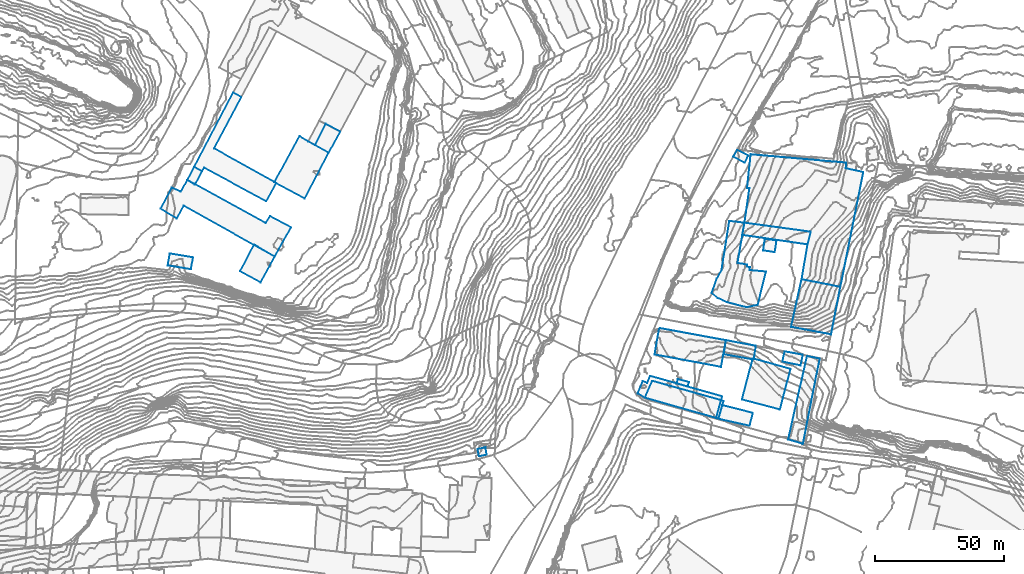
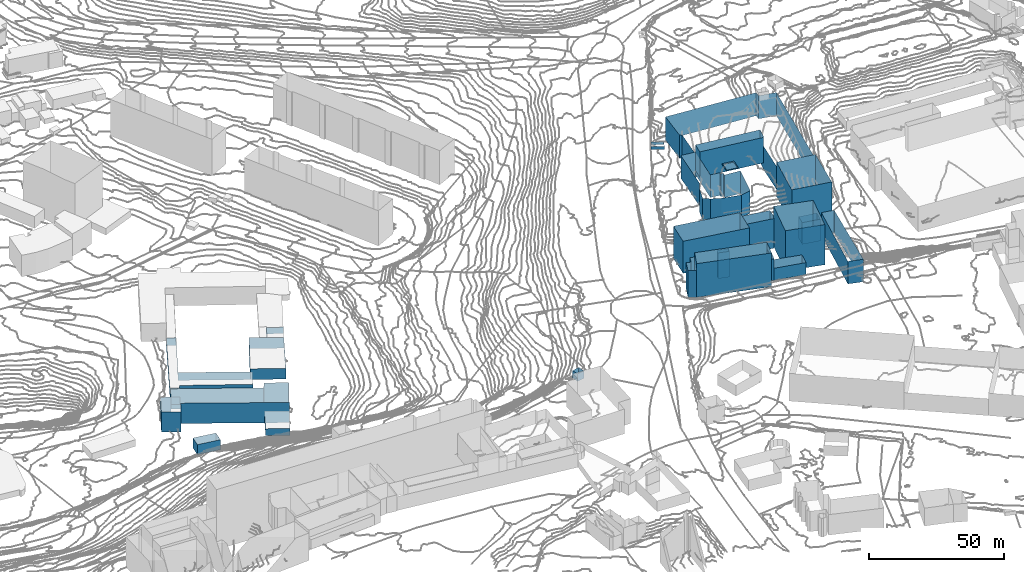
# Not in any storey, part 45 of 419: 24 walls.
"""IFC2X3 model written with IfcOpenShell, lengths in metres."""

from ifc_helpers import new_model, si_unit, frame, origin_with_axes, place, context, subcontext, project, faceted_brep, element, save


model = new_model("IFC2X3")

# Units and contexts
model_context = context("Model", 3, precision=1e-05, world=origin_with_axes())
body_context = subcontext(model_context, "Body", "Model", "MODEL_VIEW")
ifc_project = project(units=[si_unit("AREAUNIT", "SQUARE_METRE"), si_unit("LENGTHUNIT", "METRE")], contexts=[model_context])

# Walls
wall_1_placement = place(None, frame((808.3920204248, 392.4976909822, 74.1273982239), z_axis=(0.0, 0.0, 1.0), x_axis=(1.0, 0.0, 0.0)))
element("IfcWall", 1, at=wall_1_placement, Name="Mur 0", context=body_context, shape_type="Brep", body=[
    faceted_brep([(7.0, -1.3999999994, 9.8726017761), (0.0, 0.0, 9.8726017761), (7.0, -1.3999999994, 0.0), (0.0, 0.0, 0.0), (7.8999999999, 2.7000000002, 9.8726017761), (7.8999999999, 2.7000000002, 0.0), (0.7999999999, 4.0, 9.8726017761), (0.7999999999, 4.0, 0.0)], [[[0, 1, 2]], [[2, 1, 3]], [[4, 0, 5]], [[5, 0, 2]], [[1, 6, 3]], [[3, 6, 7]], [[6, 4, 7]], [[7, 4, 5]]]),
])
wall_2_placement = place(None, frame((782.6920204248, 370.6976909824, 79.8897016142), z_axis=(0.0, 0.0, 1.0), x_axis=(1.0, 0.0, 0.0)))
element("IfcWall", 2, at=wall_2_placement, Name="Mur 0", context=body_context, shape_type="Brep", body=[
    faceted_brep([(0.0, 0.0, 9.8102983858), (1.9, 6.9000000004, 9.8102983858), (0.0, 0.0, 0.0), (1.9, 6.9000000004, 0.0), (0.9, -0.2999999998, 9.8102983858), (0.9, -0.2999999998, 0.0), (2.9, 6.6000000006, 9.8102983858), (2.9, 6.6000000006, 0.0)], [[[0, 1, 2]], [[2, 1, 3]], [[4, 0, 5]], [[5, 0, 2]], [[1, 6, 3]], [[3, 6, 7]], [[6, 4, 7]], [[7, 4, 5]]]),
])
wall_3_placement = place(None, frame((792.7920204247, 441.5976909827, 80.2005007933), z_axis=(0.0, 0.0, 1.0), x_axis=(1.0, 0.0, 0.0)))
element("IfcWall", 3, at=wall_3_placement, Name="Mur 0", context=body_context, shape_type="Brep", body=[
    faceted_brep([(26.6000000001, 1.2000000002, 11.5994992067), (25.3, -3.7000000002, 11.5994992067), (26.6000000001, 1.2000000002, 0.0), (25.3, -3.7000000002, 0.0), (0.9, 4.7000000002, 11.5994992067), (0.9, 4.7000000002, 0.0), (0.0, 0.0, 11.5994992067), (0.0, 0.0, 0.0)], [[[0, 1, 2]], [[2, 1, 3]], [[4, 0, 5]], [[5, 0, 2]], [[1, 6, 3]], [[3, 6, 7]], [[6, 4, 7]], [[7, 4, 5]]]),
])
wall_4_placement = place(None, frame((570.3920204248, 429.7976909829, 39.4399986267), z_axis=(0.0, 0.0, 1.0), x_axis=(1.0, 0.0, 0.0)))
element("IfcWall", 4, at=wall_4_placement, Name="Mur 0", context=body_context, shape_type="Brep", body=[
    faceted_brep([(9.7999999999, 3.0999999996, 4.5600013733), (9.0, -1.5, 4.5600013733), (9.7999999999, 3.0999999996, 0.0), (9.0, -1.5, 0.0), (0.7999999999, 4.5999999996, 4.5600013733), (0.7999999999, 4.5999999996, 0.0), (0.0, 0.0, 4.5600013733), (0.0, 0.0, 0.0)], [[[0, 1, 2]], [[2, 1, 3]], [[4, 0, 5]], [[5, 0, 2]], [[1, 6, 3]], [[3, 6, 7]], [[6, 4, 7]], [[7, 4, 5]]]),
])
wall_5_placement = place(None, frame((758.8920204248, 395.2976909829, 76.6662023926), z_axis=(0.0, 0.0, 1.0), x_axis=(1.0, 0.0, 0.0)))
element("IfcWall", 5, at=wall_5_placement, Name="Mur 0", context=body_context, shape_type="Brep", body=[
    faceted_brep([(0.0, 0.0, 14.5337976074), (1.7, 9.8999999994, 14.5337976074), (0.0, 0.0, 0.0), (1.7, 9.8999999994, 0.0), (25.7, -4.8000000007, 14.5337976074), (25.7, -4.8000000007, 0.0), (27.6, 5.5, 14.5337976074), (27.6, 5.5, 0.0), (2.1, 10.1999999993, 14.5337976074), (2.1, 10.1999999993, 0.0)], [[[0, 1, 2]], [[2, 1, 3]], [[4, 0, 5]], [[5, 0, 2]], [[6, 4, 7]], [[7, 4, 5]], [[1, 8, 3]], [[3, 8, 9]], [[8, 6, 9]], [[9, 6, 7]]]),
])
wall_6_placement = place(None, frame((793.6920204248, 446.2976909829, 77.1019989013), z_axis=(0.0, 0.0, 1.0), x_axis=(1.0, 0.0, 0.0)))
element("IfcWall", 6, at=wall_6_placement, Name="Mur 0", context=body_context, shape_type="Brep", body=[
    faceted_brep([(2.4, 26.5, 10.4980010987), (34.3, 23.6999999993, 10.4980010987), (2.4, 26.5, 0.0), (34.3, 23.6999999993, 0.0), (1.0, 13.5, 10.4980010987), (1.0, 13.5, 0.0), (1.9, 13.3999999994, 10.4980010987), (1.9, 13.3999999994, 0.0), (0.0, 0.0, 10.4980010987), (0.0, 0.0, 0.0), (25.7000000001, -3.5, 10.4980010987), (25.7000000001, -3.5, 0.0), (24.4, -8.4000000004, 10.4980010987), (24.4, -8.4000000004, 0.0), (22.1, -21.9000000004, 10.4980010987), (22.1, -21.9000000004, 0.0), (37.1, -24.8000000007, 10.4980010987), (37.1, -24.8000000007, 0.0), (46.0, 19.5999999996, 10.4980010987), (46.0, 19.5999999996, 0.0), (39.2000000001, 21.0999999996, 10.4980010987), (39.2000000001, 21.0999999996, 0.0), (39.4, 23.2999999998, 10.4980010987), (39.4, 23.2999999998, 0.0)], [[[0, 1, 2]], [[2, 1, 3]], [[4, 0, 5]], [[5, 0, 2]], [[6, 4, 7]], [[7, 4, 5]], [[8, 6, 9]], [[9, 6, 7]], [[10, 8, 11]], [[11, 8, 9]], [[12, 10, 13]], [[13, 10, 11]], [[14, 12, 15]], [[15, 12, 13]], [[16, 14, 17]], [[17, 14, 15]], [[18, 16, 19]], [[19, 16, 17]], [[20, 18, 21]], [[21, 18, 19]], [[1, 22, 3]], [[3, 22, 23]], [[22, 20, 23]], [[23, 20, 21]]]),
])
wall_7_placement = place(None, frame((627.3920204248, 476.3976909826, 39.5999984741), z_axis=(0.0, 0.0, 1.0), x_axis=(1.0, 0.0, 0.0)))
element("IfcWall", 7, at=wall_7_placement, Name="Mur 0", context=body_context, shape_type="Brep", body=[
    faceted_brep([(4.2, 8.2000000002, 2.9000015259), (9.7999999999, 5.2000000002, 2.9000015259), (4.2, 8.2000000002, 0.0), (9.7999999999, 5.2000000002, 0.0), (0.0, 0.0, 2.9000015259), (0.0, 0.0, 0.0), (5.2999999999, -3.0, 2.9000015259), (5.2999999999, -3.0, 0.0)], [[[0, 1, 2]], [[2, 1, 3]], [[4, 0, 5]], [[5, 0, 2]], [[1, 6, 3]], [[3, 6, 7]], [[6, 4, 7]], [[7, 4, 5]]]),
])
wall_8_placement = place(None, frame((598.3920204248, 427.4976909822, 39.6550003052), z_axis=(0.0, 0.0, 1.0), x_axis=(1.0, 0.0, 0.0)))
element("IfcWall", 8, at=wall_8_placement, Name="Mur 0", context=body_context, shape_type="Brep", body=[
    faceted_brep([(5.3999999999, 10.4000000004, 3.1449996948), (13.3999999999, 5.7000000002, 3.1449996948), (5.3999999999, 10.4000000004, 0.0), (13.3999999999, 5.7000000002, 0.0), (0.0, 0.0, 3.1449996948), (0.0, 0.0, 0.0), (7.8999999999, -4.2999999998, 3.1449996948), (7.8999999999, -4.2999999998, 0.0)], [[[0, 1, 2]], [[2, 1, 3]], [[4, 0, 5]], [[5, 0, 2]], [[1, 6, 3]], [[3, 6, 7]], [[6, 4, 7]], [[7, 4, 5]]]),
])
wall_9_placement = place(None, frame((767.3920204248, 384.0976909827, 78.0046014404), z_axis=(0.0, 0.0, 1.0), x_axis=(1.0, 0.0, 0.0)))
element("IfcWall", 9, at=wall_9_placement, Name="Mur 0", context=body_context, shape_type="Brep", body=[
    faceted_brep([(4.2999999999, -1.2000000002, 11.6953985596), (0.0, 0.0, 11.6953985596), (4.2999999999, -1.2000000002, 0.0), (0.0, 0.0, 0.0), (4.7999999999, 0.5, 11.6953985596), (4.7999999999, 0.5, 0.0), (0.5, 1.7000000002, 11.6953985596), (0.5, 1.7000000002, 0.0)], [[[0, 1, 2]], [[2, 1, 3]], [[4, 0, 5]], [[5, 0, 2]], [[1, 6, 3]], [[3, 6, 7]], [[6, 4, 7]], [[7, 4, 5]]]),
])
wall_10_placement = place(None, frame((580.5920204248, 467.8976909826, 39.4398013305), z_axis=(0.0, 0.0, 1.0), x_axis=(1.0, 0.0, 0.0)))
element("IfcWall", 10, at=wall_10_placement, Name="Mur 0", context=body_context, shape_type="Brep", body=[
    faceted_brep([(15.1, 28.7999999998, 3.5601986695), (18.3, 27.0999999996, 3.5601986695), (15.1, 28.7999999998, 0.0), (18.3, 27.0999999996, 0.0), (0.0, 0.0, 3.5601986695), (0.0, 0.0, 0.0), (3.1, -1.5999999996, 3.5601986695), (3.1, -1.5999999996, 0.0), (3.9, -0.2999999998, 3.5601986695), (3.9, -0.2999999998, 0.0), (27.9, -13.2999999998, 3.5601986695), (27.9, -13.2999999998, 0.0), (31.8, -6.2000000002, 3.5601986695), (31.8, -6.2000000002, 0.0), (7.7, 7.2000000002, 3.5601986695), (7.7, 7.2000000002, 0.0)], [[[0, 1, 2]], [[2, 1, 3]], [[4, 0, 5]], [[5, 0, 2]], [[6, 4, 7]], [[7, 4, 5]], [[8, 6, 9]], [[9, 6, 7]], [[10, 8, 11]], [[11, 8, 9]], [[12, 10, 13]], [[13, 10, 11]], [[1, 14, 3]], [[3, 14, 15]], [[14, 12, 15]], [[15, 12, 13]]]),
])
wall_11_placement = place(None, frame((567.5920204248, 451.6976909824, 37.4309989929), z_axis=(0.0, 0.0, 1.0), x_axis=(1.0, 0.0, 0.0)))
element("IfcWall", 11, at=wall_11_placement, Name="Mur 0", context=body_context, shape_type="Brep", body=[
    faceted_brep([(50.5, -7.2000000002, 9.1690010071), (44.2, -18.5, 9.1690010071), (50.5, -7.2000000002, 0.0), (44.2, -18.5, 0.0), (42.4, -2.8999999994, 9.1690010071), (42.4, -2.8999999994, 0.0), (40.7, -5.5, 9.1690010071), (40.7, -5.5, 0.0), (10.4, 11.2000000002, 9.1690010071), (10.4, 11.2000000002, 0.0), (7.9, 6.6000000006, 9.1690010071), (7.9, 6.6000000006, 0.0), (4.4, 8.2000000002, 9.1690010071), (4.4, 8.2000000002, 0.0), (0.0, 0.0, 9.1690010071), (0.0, 0.0, 0.0), (6.3, -3.7000000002, 9.1690010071), (6.3, -3.7000000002, 0.0), (9.0, 1.2000000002, 9.1690010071), (9.0, 1.2000000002, 0.0)], [[[0, 1, 2]], [[2, 1, 3]], [[4, 0, 5]], [[5, 0, 2]], [[6, 4, 7]], [[7, 4, 5]], [[8, 6, 9]], [[9, 6, 7]], [[10, 8, 11]], [[11, 8, 9]], [[12, 10, 13]], [[13, 10, 11]], [[14, 12, 15]], [[15, 12, 13]], [[16, 14, 17]], [[17, 14, 15]], [[1, 18, 3]], [[3, 18, 19]], [[18, 16, 19]], [[19, 16, 17]]]),
])
wall_12_placement = place(None, frame((690.3920204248, 358.6976909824, 75.3517977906), z_axis=(0.0, 0.0, 1.0), x_axis=(1.0, 0.0, 0.0)))
element("IfcWall", 12, at=wall_12_placement, Name="Mur 0", context=body_context, shape_type="Brep", body=[
    faceted_brep([(3.5, -2.2000000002, 3.3482022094), (0.5, -2.7999999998, 3.3482022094), (3.5, -2.2000000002, 0.0), (0.5, -2.7999999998, 0.0), (3.0, 0.7000000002, 3.3482022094), (3.0, 0.7000000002, 0.0), (0.0, 0.0, 3.3482022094), (0.0, 0.0, 0.0)], [[[0, 1, 2]], [[2, 1, 3]], [[4, 0, 5]], [[5, 0, 2]], [[1, 6, 3]], [[3, 6, 7]], [[6, 4, 7]], [[7, 4, 5]]]),
])
wall_13_placement = place(None, frame((800.8920204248, 435.5976909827, 83.8170013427), z_axis=(0.0, 0.0, 1.0), x_axis=(1.0, 0.0, 0.0)))
element("IfcWall", 13, at=wall_13_placement, Name="Mur 0", context=body_context, shape_type="Brep", body=[
    faceted_brep([(5.2, 3.7999999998, 0.4829986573), (4.5, -0.7000000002, 0.4829986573), (5.2, 3.7999999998, 0.0), (4.5, -0.7000000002, 0.0), (0.7, 4.5, 0.4829986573), (0.7, 4.5, 0.0), (0.0, 0.0, 0.4829986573), (0.0, 0.0, 0.0)], [[[0, 1, 2]], [[2, 1, 3]], [[4, 0, 5]], [[5, 0, 2]], [[1, 6, 3]], [[3, 6, 7]], [[6, 4, 7]], [[7, 4, 5]]]),
])
wall_14_placement = place(None, frame((783.5920204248, 370.3976909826, 79.8899993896), z_axis=(0.0, 0.0, 1.0), x_axis=(1.0, 0.0, 0.0)))
element("IfcWall", 14, at=wall_14_placement, Name="Mur 0", context=body_context, shape_type="Brep", body=[
    faceted_brep([(0.0, 0.0, 5.5100006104), (1.5, 5.2999999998, 5.5100006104), (0.0, 0.0, 0.0), (1.5, 5.2999999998, 0.0), (12.1, -2.7000000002, 5.5100006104), (12.1, -2.7000000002, 0.0), (13.3, 2.2999999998, 5.5100006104), (13.3, 2.2999999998, 0.0)], [[[0, 1, 2]], [[2, 1, 3]], [[4, 0, 5]], [[5, 0, 2]], [[1, 6, 3]], [[3, 6, 7]], [[6, 4, 7]], [[7, 4, 5]]]),
])
wall_15_placement = place(None, frame((611.6920204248, 461.9976909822, 39.5172005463), z_axis=(0.0, 0.0, 1.0), x_axis=(1.0, 0.0, 0.0)))
element("IfcWall", 15, at=wall_15_placement, Name="Mur 0", context=body_context, shape_type="Brep", body=[
    faceted_brep([(9.7000000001, 17.8000000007, 4.8827994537), (13.1, 15.8000000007, 4.8827994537), (9.7000000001, 17.8000000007, 0.0), (13.1, 15.8000000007, 0.0), (0.0, 0.0, 4.8827994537), (0.0, 0.0, 0.0), (11.7000000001, -6.2999999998, 4.8827994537), (11.7000000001, -6.2999999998, 0.0), (21.0, 11.4000000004, 4.8827994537), (21.0, 11.4000000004, 0.0)], [[[0, 1, 2]], [[2, 1, 3]], [[4, 0, 5]], [[5, 0, 2]], [[6, 4, 7]], [[7, 4, 5]], [[1, 8, 3]], [[3, 8, 9]], [[8, 6, 9]], [[9, 6, 7]]]),
])
wall_16_placement = place(None, frame((811.6920204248, 405.9976909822, 73.9557995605), z_axis=(0.0, 0.0, 1.0), x_axis=(1.0, 0.0, 0.0)))
element("IfcWall", 16, at=wall_16_placement, Name="Mur 0", context=body_context, shape_type="Brep", body=[
    faceted_brep([(19.1, 15.5, 15.5442004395), (15.5, -2.8999999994, 15.5442004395), (19.1, 15.5, 0.0), (15.5, -2.8999999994, 0.0), (4.1, 18.4000000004, 15.5442004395), (4.1, 18.4000000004, 0.0), (0.0, 0.0, 15.5442004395), (0.0, 0.0, 0.0)], [[[0, 1, 2]], [[2, 1, 3]], [[4, 0, 5]], [[5, 0, 2]], [[1, 6, 3]], [[3, 6, 7]], [[6, 4, 7]], [[7, 4, 5]]]),
])
wall_17_placement = place(None, frame((789.3920204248, 471.8976909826, 75.6900009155), z_axis=(0.0, 0.0, 1.0), x_axis=(1.0, 0.0, 0.0)))
element("IfcWall", 17, at=wall_17_placement, Name="Mur 0", context=body_context, shape_type="Brep", body=[
    faceted_brep([(0.0, 0.0, 1.3099990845), (1.3999999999, 2.5999999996, 1.3099990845), (0.0, 0.0, 0.0), (1.3999999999, 2.5999999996, 0.0), (4.2999999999, -2.4000000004, 1.3099990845), (4.2999999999, -2.4000000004, 0.0), (5.7, 0.5, 1.3099990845), (5.7, 0.5, 0.0)], [[[0, 1, 2]], [[2, 1, 3]], [[4, 0, 5]], [[5, 0, 2]], [[1, 6, 3]], [[3, 6, 7]], [[6, 4, 7]], [[7, 4, 5]]]),
])
wall_18_placement = place(None, frame((785.6920204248, 395.3976909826, 75.9684982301), z_axis=(0.0, 0.0, 1.0), x_axis=(1.0, 0.0, 0.0)))
element("IfcWall", 18, at=wall_18_placement, Name="Mur 0", context=body_context, shape_type="Brep", body=[
    faceted_brep([(11.1, -2.0, 13.4315017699), (0.0, 0.0, 13.4315017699), (11.1, -2.0, 0.0), (0.0, 0.0, 0.0), (11.2000000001, -1.5999999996, 13.4315017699), (11.2000000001, -1.5999999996, 0.0), (11.6, -1.7999999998, 13.4315017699), (11.6, -1.7999999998, 0.0), (12.4, 3.2999999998, 13.4315017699), (12.4, 3.2999999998, 0.0), (0.8, 5.4000000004, 13.4315017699), (0.8, 5.4000000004, 0.0)], [[[0, 1, 2]], [[2, 1, 3]], [[4, 0, 5]], [[5, 0, 2]], [[6, 4, 7]], [[7, 4, 5]], [[8, 6, 9]], [[9, 6, 7]], [[1, 10, 3]], [[3, 10, 11]], [[10, 8, 11]], [[11, 8, 9]]]),
])
wall_19_placement = place(None, frame((755.0920204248, 378.5976909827, 77.1989997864), z_axis=(0.0, 0.0, 1.0), x_axis=(1.0, 0.0, 0.0)))
element("IfcWall", 19, at=wall_19_placement, Name="Mur 0", context=body_context, shape_type="Brep", body=[
    faceted_brep([(29.5, -1.0, 15.3010002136), (27.6, -7.9000000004, 15.3010002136), (29.5, -1.0, 0.0), (27.6, -7.9000000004, 0.0), (2.9, 6.5, 15.3010002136), (2.9, 6.5, 0.0), (0.0, 0.0, 15.3010002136), (0.0, 0.0, 0.0)], [[[0, 1, 2]], [[2, 1, 3]], [[4, 0, 5]], [[5, 0, 2]], [[1, 6, 3]], [[3, 6, 7]], [[6, 4, 7]], [[7, 4, 5]]]),
])
wall_20_placement = place(None, frame((577.9920204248, 462.8976909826, 39.5182004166), z_axis=(0.0, 0.0, 1.0), x_axis=(1.0, 0.0, 0.0)))
element("IfcWall", 20, at=wall_20_placement, Name="Mur 0", context=body_context, shape_type="Brep", body=[
    faceted_brep([(5.7, 3.4000000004, 3.4817995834), (2.9, -1.9000000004, 3.4817995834), (5.7, 3.4000000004, 0.0), (2.9, -1.9000000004, 0.0), (2.6, 5.0, 3.4817995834), (2.6, 5.0, 0.0), (0.0, 0.0, 3.4817995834), (0.0, 0.0, 0.0)], [[[0, 1, 2]], [[2, 1, 3]], [[4, 0, 5]], [[5, 0, 2]], [[1, 6, 3]], [[3, 6, 7]], [[6, 4, 7]], [[7, 4, 5]]]),
])
wall_21_placement = place(None, frame((792.6920204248, 377.8976909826, 76.4721983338), z_axis=(0.0, 0.0, 1.0), x_axis=(1.0, 0.0, 0.0)))
element("IfcWall", 21, at=wall_21_placement, Name="Mur 0", context=body_context, shape_type="Brep", body=[
    faceted_brep([(0.0, 0.0, 18.2278016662), (4.1, 15.5, 18.2278016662), (0.0, 0.0, 0.0), (4.1, 15.5, 0.0), (14.7000000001, -3.9000000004, 18.2278016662), (14.7000000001, -3.9000000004, 0.0), (18.8, 11.7999999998, 18.2278016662), (18.8, 11.7999999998, 0.0), (4.2000000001, 15.9000000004, 18.2278016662), (4.2000000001, 15.9000000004, 0.0)], [[[0, 1, 2]], [[2, 1, 3]], [[4, 0, 5]], [[5, 0, 2]], [[6, 4, 7]], [[7, 4, 5]], [[1, 8, 3]], [[3, 8, 9]], [[8, 6, 9]], [[9, 6, 7]]]),
])
wall_22_placement = place(None, frame((752.2920204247, 380.1976909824, 77.1989997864), z_axis=(0.0, 0.0, 1.0), x_axis=(1.0, 0.0, 0.0)))
element("IfcWall", 22, at=wall_22_placement, Name="Mur 0", context=body_context, shape_type="Brep", body=[
    faceted_brep([(5.7000000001, 4.9000000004, 12.2010002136), (2.8, -1.5999999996, 12.2010002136), (5.7000000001, 4.9000000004, 0.0), (2.8, -1.5999999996, 0.0), (32.3, -2.5999999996, 12.2010002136), (32.3, -2.5999999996, 0.0), (32.8, -1.0999999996, 12.2010002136), (32.8, -1.0999999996, 0.0), (4.8, 6.7999999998, 12.2010002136), (4.8, 6.7999999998, 0.0), (3.7000000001, 4.1000000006, 12.2010002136), (3.7000000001, 4.1000000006, 0.0), (2.0, 4.7999999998, 12.2010002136), (2.0, 4.7999999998, 0.0), (0.0, 0.0, 12.2010002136), (0.0, 0.0, 0.0)], [[[0, 1, 2]], [[2, 1, 3]], [[4, 0, 5]], [[5, 0, 2]], [[6, 4, 7]], [[7, 4, 5]], [[8, 6, 9]], [[9, 6, 7]], [[10, 8, 11]], [[11, 8, 9]], [[12, 10, 13]], [[13, 10, 11]], [[1, 14, 3]], [[3, 14, 15]], [[14, 12, 15]], [[15, 12, 13]]]),
])
wall_23_placement = place(None, frame((810.5920204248, 362.3976909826, 73.6903987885), z_axis=(0.0, 0.0, 1.0), x_axis=(1.0, 0.0, 0.0)))
element("IfcWall", 23, at=wall_23_placement, Name="Mur 0", context=body_context, shape_type="Brep", body=[
    faceted_brep([(0.0, 0.0, 10.2096012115), (7.3, 32.2999999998, 10.2096012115), (0.0, 0.0, 0.0), (7.3, 32.2999999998, 0.0), (5.7, -1.7000000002, 10.2096012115), (5.7, -1.7000000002, 0.0), (12.1, 30.7999999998, 10.2096012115), (12.1, 30.7999999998, 0.0), (12.1, 31.2999999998, 10.2096012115), (12.1, 31.2999999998, 0.0)], [[[0, 1, 2]], [[2, 1, 3]], [[4, 0, 5]], [[5, 0, 2]], [[6, 4, 7]], [[7, 4, 5]], [[1, 8, 3]], [[3, 8, 9]], [[8, 6, 9]], [[9, 6, 7]]]),
])
wall_24_placement = place(None, frame((780.9920204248, 418.9976909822, 78.321199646), z_axis=(0.0, 0.0, 1.0), x_axis=(1.0, 0.0, 0.0)))
element("IfcWall", 24, at=wall_24_placement, Name="Mur 0", context=body_context, shape_type="Brep", body=[
    faceted_brep([(6.7999999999, 28.0, 10.278800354), (12.7, 27.3000000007, 10.278800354), (6.7999999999, 28.0, 0.0), (12.7, 27.3000000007, 0.0), (3.7999999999, 8.9000000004, 10.278800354), (3.7999999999, 8.9000000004, 0.0), (1.9, 5.6000000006, 10.278800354), (1.9, 5.6000000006, 0.0), (0.0, 0.0, 10.278800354), (0.0, 0.0, 0.0), (2.2999999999, -1.7999999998, 10.278800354), (2.2999999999, -1.7999999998, 0.0), (6.0, -3.5, 10.278800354), (6.0, -3.5, 0.0), (13.5, -5.3999999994, 10.278800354), (13.5, -5.3999999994, 0.0), (17.7999999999, -4.5, 10.278800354), (17.7999999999, -4.5, 0.0), (21.0, 8.4000000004, 10.278800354), (21.0, 8.4000000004, 0.0), (14.6, 9.0, 10.278800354), (14.6, 9.0, 0.0), (14.7999999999, 10.1000000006, 10.278800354), (14.7999999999, 10.1000000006, 0.0), (13.7, 10.3000000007, 10.278800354), (13.7, 10.3000000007, 0.0), (13.7999999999, 11.1000000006, 10.278800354), (13.7999999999, 11.1000000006, 0.0), (10.0, 11.7000000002, 10.278800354), (10.0, 11.7000000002, 0.0)], [[[0, 1, 2]], [[2, 1, 3]], [[4, 0, 5]], [[5, 0, 2]], [[6, 4, 7]], [[7, 4, 5]], [[8, 6, 9]], [[9, 6, 7]], [[10, 8, 11]], [[11, 8, 9]], [[12, 10, 13]], [[13, 10, 11]], [[14, 12, 15]], [[15, 12, 13]], [[16, 14, 17]], [[17, 14, 15]], [[18, 16, 19]], [[19, 16, 17]], [[20, 18, 21]], [[21, 18, 19]], [[22, 20, 23]], [[23, 20, 21]], [[24, 22, 25]], [[25, 22, 23]], [[26, 24, 27]], [[27, 24, 25]], [[1, 28, 3]], [[3, 28, 29]], [[28, 26, 29]], [[29, 26, 27]]]),
])

save(model, "model.ifc")
